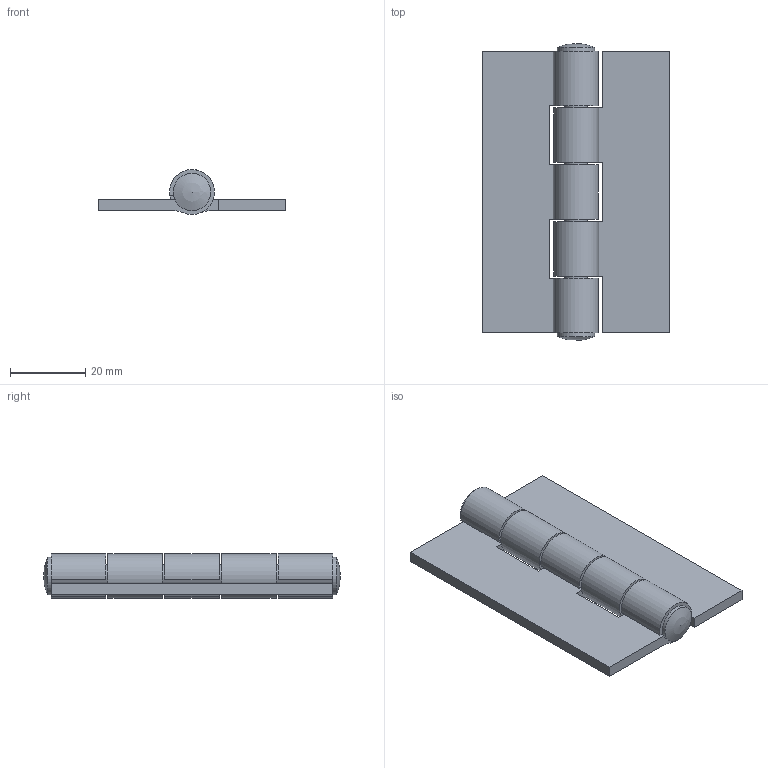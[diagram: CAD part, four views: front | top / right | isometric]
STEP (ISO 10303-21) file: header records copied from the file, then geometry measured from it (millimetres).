
FILE_DESCRIPTION(/* description */ (''),/* implementation_level */ '2;1');
FILE_NAME(/* name */ '\\NAS\db20\HTN7550-30\DR_HTN7550-30.stp',/* time_stamp */ '2017-08-22T16:51:46+09:00',/* author */ ('user'),/* organization */ (''),/* preprocessor_version */ 'ST-DEVELOPER v15.6',/* originating_system */ 'Autodesk Inventor 2015',/* authorisation */ '');
FILE_SCHEMA (('AUTOMOTIVE_DESIGN { 1 0 10303 214 3 1 1 }'));
Length unit declared in the file: millimetre
Products named in the file (3): DR_HTN7550-30-P1; DR_HTN7550-30-P2; DR_HTN7550-30
Bounding box: 50 x 79 x 11.98 mm (x, y, z)
Volume: 16806.1 mm3; surface area: 13358.6 mm2
Topology: 3 solids, 3 shells, 55 faces, 147 edges, 98 vertices
Faces by surface type: plane 30, cylinder 23, sphere 2
Full cylindrical faces by diameter (mm): 6 x1, 10 x2
Entity records: 1737 total; most frequent: DIRECTION 304, CARTESIAN_POINT 292, ORIENTED_EDGE 276, EDGE_CURVE 138, AXIS2_PLACEMENT_3D 106, VERTEX_POINT 94, LINE 92, VECTOR 92
